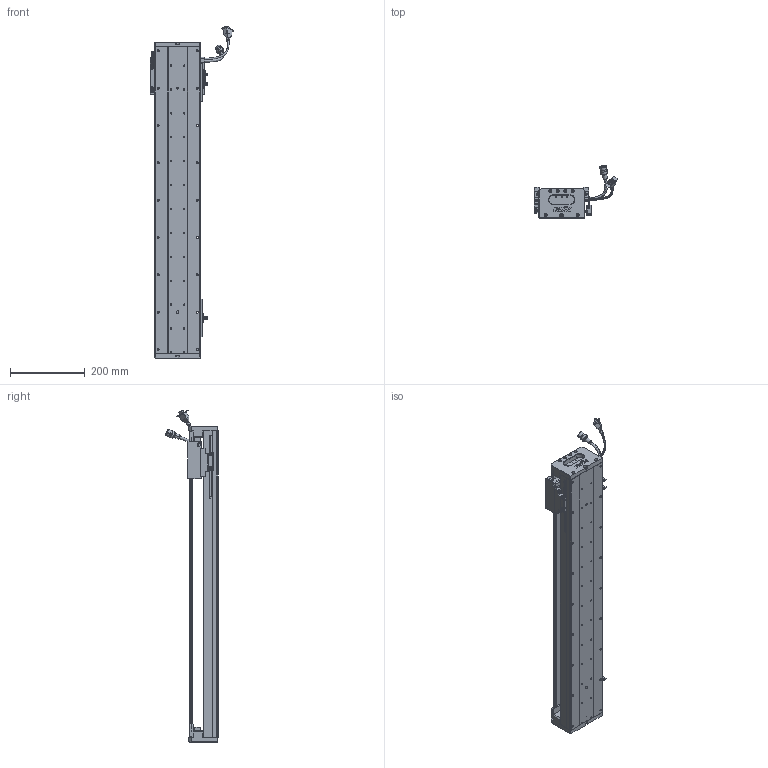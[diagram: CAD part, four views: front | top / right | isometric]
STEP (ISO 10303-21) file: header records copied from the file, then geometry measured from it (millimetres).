
FILE_DESCRIPTION (( 'STEP AP203' ), '1' );
FILE_NAME ('Z1-RY120D-1-L500-B-K.SLDASM_0650.step', '2021-05-17T03:45:07', ( '盈信电脑' ), ( '东莞市道滘镇水果街19号' ), 'SwSTEP 2.0', 'SolidWorks 2016', '' );
FILE_SCHEMA (( 'CONFIG_CONTROL_DESIGN' ));
Length unit declared in the file: millimetre
Products named in the file (37): SCREW-M1.6-2; Z-RY120D詩湍狟揤裔; SCALE-Part-1; Z1-RY120-500-倰第菁釱_0650; SCALE-Part-2; PBU_SHEET; 覜茼ん672; Z-120詩湍傷裔啣; SHIELDPLATE; Z-RY120D詩湍奻揤裔; COVER; 120-Z-臏賑輸盄裔(21遴); SCREW-M1.7-1; PSLH080_PSLF2; 672嫖萇羲壽假蚾釱; SCREW-M1.6; 080黍杅芛假蚾釱21遴; LABEL; SCREW-M1.6-3; HOLDER0; 140蚥薯蝶輸; HARNESS; 榋妏寠巭燃_暯_M2_2; HARNESS-Part-2; LABEL-Part-1; SEAL-Part-1; Z1-RY120D-1-L500-B-K.SLDASM_0650; Z1-RY120铝滑块（21款）; SCREW-M1.7; 140雄赽晤鎢ん堤盄; Z1-RY120-L500詩湍100mm遵_0650; COVER-Part-1; SEAL; RY100FB-遵嫖萇覜茼え; SCALE; SCREW-M1.6-1; HARNESS-Part-1
Assembly tree (43 placements, depth 4):
  Z1-RY120D-1-L500-B-K.SLDASM_0650
    Z1-RY120-500-倰第菁釱_0650
    覜茼ん672  x3
    672嫖萇羲壽假蚾釱  x2
    Z1-RY120铝滑块（21款）
    PSLH080_PSLF2
      SCALE
        SCALE-Part-1
        SCALE-Part-2
      HARNESS
        HARNESS-Part-1
        HARNESS-Part-2
      LABEL
        LABEL-Part-1
      COVER
        COVER-Part-1
      SEAL
        SEAL-Part-1
      榋妏寠巭燃_暯_M2_2
      SHIELDPLATE
      SCREW-M1.7
      SCREW-M1.7-1
      PBU_SHEET
      SCREW-M1.6
      SCREW-M1.6-1
      SCREW-M1.6-2
      SCREW-M1.6-3
      HOLDER0
    080黍杅芛假蚾釱21遴
    120-Z-臏賑輸盄裔(21遴)
    140雄赽晤鎢ん堤盄
    140蚥薯蝶輸  x2
    RY100FB-遵嫖萇覜茼え
    Z-120詩湍傷裔啣  x2
    Z-RY120D詩湍奻揤裔  x2
    Z-RY120D詩湍狟揤裔  x2
    Z1-RY120-L500詩湍100mm遵_0650
Bounding box: 222.88 x 140.94 x 889 mm (x, y, z)
Volume: 2347104.1 mm3; surface area: 818844.4 mm2
Topology: 38 solids, 38 shells, 2653 faces, 7140 edges, 4518 vertices
Faces by surface type: cylinder 1178, plane 1103, cone 250, torus 69, bspline 53
Entity records: 78715 total; most frequent: CARTESIAN_POINT 20876, ORIENTED_EDGE 11304, DIRECTION 11100, EDGE_CURVE 5652, AXIS2_PLACEMENT_3D 4028, VERTEX_POINT 3638, VECTOR 3044, LINE 3044
